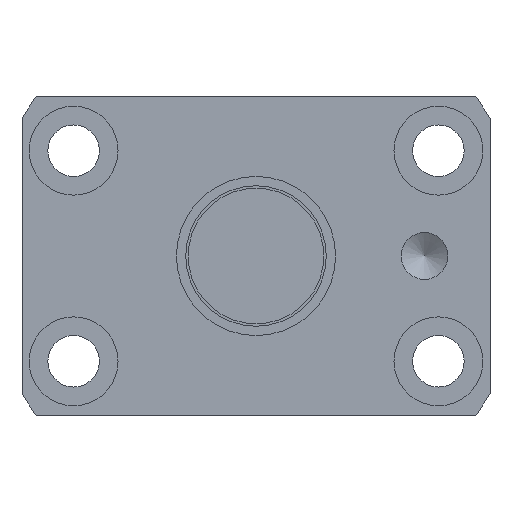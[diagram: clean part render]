
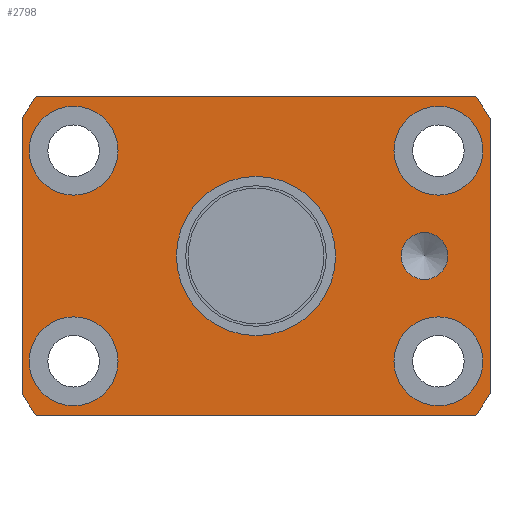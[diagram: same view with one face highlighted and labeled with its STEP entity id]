
A CAD part, left-side view. The second image highlights one B-rep face of the part: STEP entity #2798.
In plain terms, the highlighted planar face has unit normal (-1, 0, 0).
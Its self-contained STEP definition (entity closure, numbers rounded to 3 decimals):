
#40 = CARTESIAN_POINT ( 'NONE',  ( 0., -25., 14.697 ) ) ;
#70 = EDGE_CURVE ( 'NONE', #851, #1803, #2488, .T. ) ;
#72 = FACE_BOUND ( 'NONE', #1047, .T. ) ;
#81 = CARTESIAN_POINT ( 'NONE',  ( 0., -23.495, -17. ) ) ;
#114 = DIRECTION ( 'NONE',  ( 0., 1., 0. ) ) ;
#144 = DIRECTION ( 'NONE',  ( 0., 1., 0. ) ) ;
#186 = VECTOR ( 'NONE', #1880, 1000. ) ;
#192 = EDGE_LOOP ( 'NONE', ( #444, #786, #2897, #1495, #2603, #1920, #2011, #825 ) ) ;
#203 = AXIS2_PLACEMENT_3D ( 'NONE', #2970, #1188, #1725 ) ;
#212 = DIRECTION ( 'NONE',  ( 0., 1., 0. ) ) ;
#219 = EDGE_CURVE ( 'NONE', #1430, #1430, #3032, .T. ) ;
#255 = CIRCLE ( 'NONE', #2122, 4.75 ) ;
#274 = VERTEX_POINT ( 'NONE', #2030 ) ;
#283 = LINE ( 'NONE', #3075, #880 ) ;
#299 = DIRECTION ( 'NONE',  ( 0., -1., 0. ) ) ;
#341 = EDGE_CURVE ( 'NONE', #2474, #2474, #2640, .T. ) ;
#356 = CARTESIAN_POINT ( 'NONE',  ( 0., -25., -14.697 ) ) ;
#367 = CIRCLE ( 'NONE', #2284, 29. ) ;
#416 = CARTESIAN_POINT ( 'NONE',  ( 0., -23.495, 17. ) ) ;
#436 = ORIENTED_EDGE ( 'NONE', *, *, #219, .T. ) ;
#444 = ORIENTED_EDGE ( 'NONE', *, *, #1741, .F. ) ;
#486 = VERTEX_POINT ( 'NONE', #356 ) ;
#576 = DIRECTION ( 'NONE',  ( 0., 1., 0. ) ) ;
#597 = EDGE_CURVE ( 'NONE', #636, #851, #2119, .T. ) ;
#608 = FACE_BOUND ( 'NONE', #1584, .T. ) ;
#629 = DIRECTION ( 'NONE',  ( 0., 0., 1. ) ) ;
#630 = CARTESIAN_POINT ( 'NONE',  ( 0., 25., -14.697 ) ) ;
#634 = LINE ( 'NONE', #81, #2818 ) ;
#636 = VERTEX_POINT ( 'NONE', #630 ) ;
#670 = CIRCLE ( 'NONE', #2016, 8.5 ) ;
#705 = DIRECTION ( 'NONE',  ( 1., 0., 0. ) ) ;
#719 = CARTESIAN_POINT ( 'NONE',  ( 0., -19.486, -11.25 ) ) ;
#725 = VERTEX_POINT ( 'NONE', #1104 ) ;
#729 = EDGE_LOOP ( 'NONE', ( #2547 ) ) ;
#735 = EDGE_LOOP ( 'NONE', ( #2632 ) ) ;
#748 = VERTEX_POINT ( 'NONE', #2804 ) ;
#776 = CIRCLE ( 'NONE', #1371, 29. ) ;
#786 = ORIENTED_EDGE ( 'NONE', *, *, #2503, .F. ) ;
#792 = CARTESIAN_POINT ( 'NONE',  ( 0., 0., 0. ) ) ;
#825 = ORIENTED_EDGE ( 'NONE', *, *, #2737, .F. ) ;
#851 = VERTEX_POINT ( 'NONE', #1186 ) ;
#874 = CARTESIAN_POINT ( 'NONE',  ( 0., 25., -14.697 ) ) ;
#880 = VECTOR ( 'NONE', #299, 1000. ) ;
#906 = CARTESIAN_POINT ( 'NONE',  ( 0., 0., 0. ) ) ;
#980 = VERTEX_POINT ( 'NONE', #1236 ) ;
#994 = CARTESIAN_POINT ( 'NONE',  ( 0., 0., 0. ) ) ;
#1047 = EDGE_LOOP ( 'NONE', ( #2755 ) ) ;
#1058 = DIRECTION ( 'NONE',  ( 0., 0., -1. ) ) ;
#1068 = DIRECTION ( 'NONE',  ( 0., 1., 0. ) ) ;
#1087 = CARTESIAN_POINT ( 'NONE',  ( 0., 0., 0. ) ) ;
#1104 = CARTESIAN_POINT ( 'NONE',  ( 0., -23.495, -17. ) ) ;
#1149 = CIRCLE ( 'NONE', #3047, 29. ) ;
#1186 = CARTESIAN_POINT ( 'NONE',  ( 0., 25., 14.697 ) ) ;
#1188 = DIRECTION ( 'NONE',  ( 1., 0., 0. ) ) ;
#1203 = DIRECTION ( 'NONE',  ( -1., 0., 0. ) ) ;
#1236 = CARTESIAN_POINT ( 'NONE',  ( 0., 8.5, 0. ) ) ;
#1251 = EDGE_LOOP ( 'NONE', ( #436 ) ) ;
#1272 = CARTESIAN_POINT ( 'NONE',  ( 0., -14.736, 11.25 ) ) ;
#1287 = VERTEX_POINT ( 'NONE', #1272 ) ;
#1371 = AXIS2_PLACEMENT_3D ( 'NONE', #994, #1437, #2024 ) ;
#1399 = FACE_BOUND ( 'NONE', #3218, .T. ) ;
#1413 = AXIS2_PLACEMENT_3D ( 'NONE', #906, #705, #1676 ) ;
#1416 = CARTESIAN_POINT ( 'NONE',  ( 0., 0., 0. ) ) ;
#1430 = VERTEX_POINT ( 'NONE', #1705 ) ;
#1437 = DIRECTION ( 'NONE',  ( 1., 0., 0. ) ) ;
#1495 = ORIENTED_EDGE ( 'NONE', *, *, #2825, .F. ) ;
#1537 = LINE ( 'NONE', #40, #2172 ) ;
#1584 = EDGE_LOOP ( 'NONE', ( #1733 ) ) ;
#1602 = CARTESIAN_POINT ( 'NONE',  ( 0., -18., 0. ) ) ;
#1619 = DIRECTION ( 'NONE',  ( 1., 0., 0. ) ) ;
#1674 = FACE_BOUND ( 'NONE', #729, .T. ) ;
#1676 = DIRECTION ( 'NONE',  ( 0., 1., 0. ) ) ;
#1705 = CARTESIAN_POINT ( 'NONE',  ( 0., 24.236, -11.25 ) ) ;
#1716 = CARTESIAN_POINT ( 'NONE',  ( 0., 23.495, 17. ) ) ;
#1725 = DIRECTION ( 'NONE',  ( 0., 1., 0. ) ) ;
#1733 = ORIENTED_EDGE ( 'NONE', *, *, #2570, .T. ) ;
#1741 = EDGE_CURVE ( 'NONE', #725, #2047, #634, .T. ) ;
#1777 = DIRECTION ( 'NONE',  ( 1., 0., 0. ) ) ;
#1790 = DIRECTION ( 'NONE',  ( 0., 1., 0. ) ) ;
#1803 = VERTEX_POINT ( 'NONE', #1716 ) ;
#1811 = AXIS2_PLACEMENT_3D ( 'NONE', #719, #3225, #212 ) ;
#1829 = CARTESIAN_POINT ( 'NONE',  ( 0., 19.486, 11.25 ) ) ;
#1845 = DIRECTION ( 'NONE',  ( 0., 1., 0. ) ) ;
#1880 = DIRECTION ( 'NONE',  ( 0., 0., 1. ) ) ;
#1906 = CARTESIAN_POINT ( 'NONE',  ( 0., 19.486, -11.25 ) ) ;
#1920 = ORIENTED_EDGE ( 'NONE', *, *, #70, .F. ) ;
#1967 = VERTEX_POINT ( 'NONE', #416 ) ;
#1971 = CIRCLE ( 'NONE', #203, 4.75 ) ;
#2004 = AXIS2_PLACEMENT_3D ( 'NONE', #1906, #1619, #1068 ) ;
#2011 = ORIENTED_EDGE ( 'NONE', *, *, #597, .F. ) ;
#2016 = AXIS2_PLACEMENT_3D ( 'NONE', #792, #1777, #1790 ) ;
#2024 = DIRECTION ( 'NONE',  ( 0., 1., 0. ) ) ;
#2030 = CARTESIAN_POINT ( 'NONE',  ( 0., 24.236, 11.25 ) ) ;
#2038 = DIRECTION ( 'NONE',  ( 1., 0., 0. ) ) ;
#2047 = VERTEX_POINT ( 'NONE', #2834 ) ;
#2093 = VERTEX_POINT ( 'NONE', #2919 ) ;
#2118 = DIRECTION ( 'NONE',  ( -1., 0., 0. ) ) ;
#2119 = LINE ( 'NONE', #874, #186 ) ;
#2122 = AXIS2_PLACEMENT_3D ( 'NONE', #1829, #2038, #1845 ) ;
#2151 = FACE_BOUND ( 'NONE', #735, .T. ) ;
#2172 = VECTOR ( 'NONE', #1058, 1000. ) ;
#2284 = AXIS2_PLACEMENT_3D ( 'NONE', #1416, #2444, #144 ) ;
#2412 = FACE_OUTER_BOUND ( 'NONE', #192, .T. ) ;
#2433 = AXIS2_PLACEMENT_3D ( 'NONE', #1602, #1203, #2985 ) ;
#2444 = DIRECTION ( 'NONE',  ( 1., 0., 0. ) ) ;
#2474 = VERTEX_POINT ( 'NONE', #3004 ) ;
#2488 = CIRCLE ( 'NONE', #1413, 29. ) ;
#2503 = EDGE_CURVE ( 'NONE', #486, #725, #776, .T. ) ;
#2547 = ORIENTED_EDGE ( 'NONE', *, *, #341, .F. ) ;
#2570 = EDGE_CURVE ( 'NONE', #274, #274, #255, .T. ) ;
#2592 = EDGE_CURVE ( 'NONE', #980, #980, #670, .T. ) ;
#2596 = EDGE_CURVE ( 'NONE', #1803, #1967, #283, .T. ) ;
#2603 = ORIENTED_EDGE ( 'NONE', *, *, #2596, .F. ) ;
#2623 = PLANE ( 'NONE',  #3264 ) ;
#2632 = ORIENTED_EDGE ( 'NONE', *, *, #2592, .T. ) ;
#2640 = CIRCLE ( 'NONE', #2433, 2.5 ) ;
#2658 = CIRCLE ( 'NONE', #1811, 4.75 ) ;
#2675 = EDGE_CURVE ( 'NONE', #2093, #486, #1537, .T. ) ;
#2737 = EDGE_CURVE ( 'NONE', #2047, #636, #1149, .T. ) ;
#2755 = ORIENTED_EDGE ( 'NONE', *, *, #2863, .T. ) ;
#2798 = ADVANCED_FACE ( 'NONE', ( #1674, #2888, #1399, #72, #608, #2412, #2151 ), #2623, .T. ) ;
#2804 = CARTESIAN_POINT ( 'NONE',  ( 0., -14.736, -11.25 ) ) ;
#2818 = VECTOR ( 'NONE', #114, 1000. ) ;
#2825 = EDGE_CURVE ( 'NONE', #1967, #2093, #367, .T. ) ;
#2834 = CARTESIAN_POINT ( 'NONE',  ( 0., 23.495, -17. ) ) ;
#2863 = EDGE_CURVE ( 'NONE', #748, #748, #2658, .T. ) ;
#2888 = FACE_BOUND ( 'NONE', #1251, .T. ) ;
#2893 = EDGE_CURVE ( 'NONE', #1287, #1287, #1971, .T. ) ;
#2897 = ORIENTED_EDGE ( 'NONE', *, *, #2675, .F. ) ;
#2904 = CARTESIAN_POINT ( 'NONE',  ( 0., 12.75, 0. ) ) ;
#2919 = CARTESIAN_POINT ( 'NONE',  ( 0., -25., 14.697 ) ) ;
#2960 = DIRECTION ( 'NONE',  ( 1., 0., 0. ) ) ;
#2970 = CARTESIAN_POINT ( 'NONE',  ( 0., -19.486, 11.25 ) ) ;
#2985 = DIRECTION ( 'NONE',  ( 0., 0., 1. ) ) ;
#3004 = CARTESIAN_POINT ( 'NONE',  ( 0., -18., 2.5 ) ) ;
#3032 = CIRCLE ( 'NONE', #2004, 4.75 ) ;
#3047 = AXIS2_PLACEMENT_3D ( 'NONE', #1087, #2960, #576 ) ;
#3075 = CARTESIAN_POINT ( 'NONE',  ( 0., 23.495, 17. ) ) ;
#3187 = ORIENTED_EDGE ( 'NONE', *, *, #2893, .T. ) ;
#3218 = EDGE_LOOP ( 'NONE', ( #3187 ) ) ;
#3225 = DIRECTION ( 'NONE',  ( 1., 0., 0. ) ) ;
#3264 = AXIS2_PLACEMENT_3D ( 'NONE', #2904, #2118, #629 ) ;
